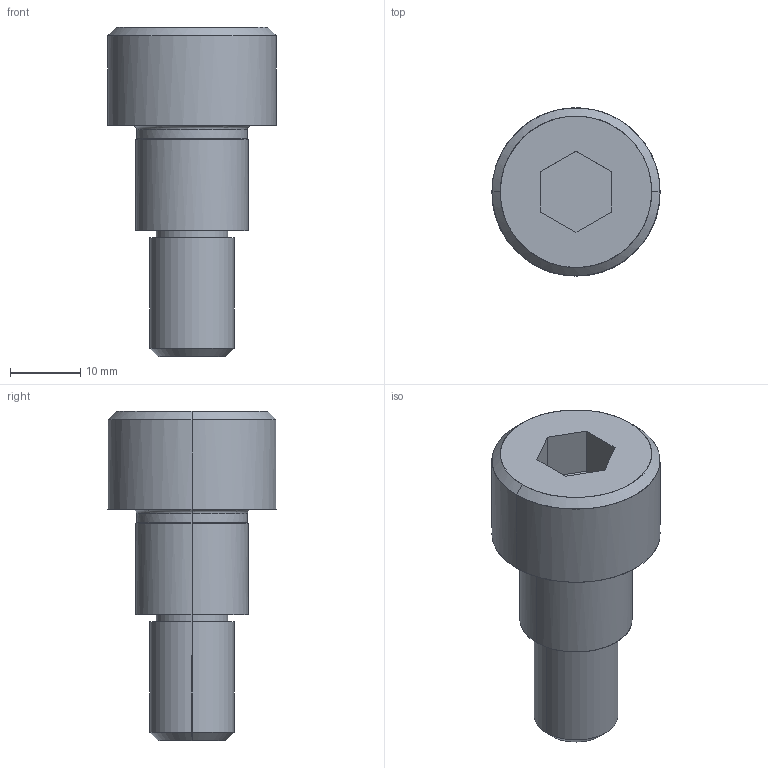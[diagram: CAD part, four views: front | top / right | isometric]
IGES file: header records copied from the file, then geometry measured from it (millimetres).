
Global section: file name: E:\UnigraphicsGraphicData\MISUMI_PRESS-PARTS\IGES\3d_msb16-15_00574_r00.igs; native system: NX V5.0; preprocessor: UGS NX IGES V5.0; author: MISUMI; date: 20110105.161513; units: millimetre
Bounding box: 24 x 24 x 47 mm (x, y, z)
Surface area: 3605.2 mm2 (no closed solid volume)
Topology: 0 solids, 0 shells, 30 faces, 172 edges, 172 vertices
Faces by surface type: bspline 30
